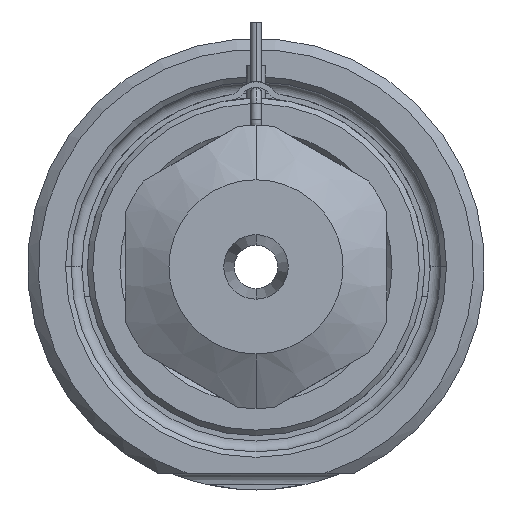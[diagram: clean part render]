
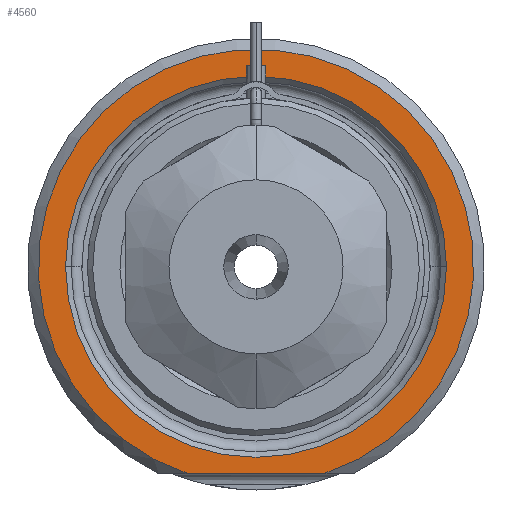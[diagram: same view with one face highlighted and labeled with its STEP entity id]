
A CAD part, front view. The second image highlights one B-rep face of the part: STEP entity #4560.
In plain terms, the highlighted planar face has unit normal (0, -1, 0).
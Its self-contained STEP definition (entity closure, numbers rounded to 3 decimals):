
#1603=CARTESIAN_POINT('',(0.,0.,0.));
#1604=DIRECTION('',(0.,-1.,0.));
#1605=DIRECTION('',(0.312,0.,-0.95));
#1606=AXIS2_PLACEMENT_3D('',#1603,#1604,#1605);
#1627=DIRECTION('',(1.,0.,0.));
#1628=VECTOR('',#1627,12.49);
#1629=CARTESIAN_POINT('',(-6.245,0.,-19.));
#1630=LINE('',#1629,#1628);
#1631=CARTESIAN_POINT('',(0.,0.,0.));
#1632=DIRECTION('',(0.,1.,0.));
#1633=DIRECTION('',(-1.,0.,0.));
#1634=AXIS2_PLACEMENT_3D('',#1631,#1632,#1633);
#1636=CARTESIAN_POINT('',(0.,0.,0.));
#1637=DIRECTION('',(0.,1.,0.));
#1638=DIRECTION('',(1.,0.,0.));
#1639=AXIS2_PLACEMENT_3D('',#1636,#1637,#1638);
#2471=CARTESIAN_POINT('',(-17.5,0.,0.));
#2472=CARTESIAN_POINT('',(17.5,0.,0.));
#2473=VERTEX_POINT('',#2471);
#2474=VERTEX_POINT('',#2472);
#2529=CARTESIAN_POINT('',(-6.245,0.,-19.));
#2530=CARTESIAN_POINT('',(6.245,0.,-19.));
#2531=VERTEX_POINT('',#2529);
#2532=VERTEX_POINT('',#2530);
#4545=CARTESIAN_POINT('',(0.,0.,0.));
#4546=DIRECTION('',(0.,-1.,0.));
#4547=DIRECTION('',(1.,0.,0.));
#4548=AXIS2_PLACEMENT_3D('',#4545,#4546,#4547);
#4549=PLANE('',#4548);
#4550=ORIENTED_EDGE('',*,*,#4477,.F.);
#4551=ORIENTED_EDGE('',*,*,#4537,.F.);
#4552=EDGE_LOOP('',(#4550,#4551));
#4553=FACE_OUTER_BOUND('',#4552,.F.);
#4555=ORIENTED_EDGE('',*,*,#4554,.F.);
#4557=ORIENTED_EDGE('',*,*,#4556,.F.);
#4558=EDGE_LOOP('',(#4555,#4557));
#4559=FACE_BOUND('',#4558,.F.);
#4560=ADVANCED_FACE('',(#4553,#4559),#4549,.T.);
#1607=CIRCLE('',#1606,20.);
#1635=CIRCLE('',#1634,17.5);
#1640=CIRCLE('',#1639,17.5);
#4477=EDGE_CURVE('',#2531,#2532,#1630,.T.);
#4537=EDGE_CURVE('',#2532,#2531,#1607,.T.);
#4554=EDGE_CURVE('',#2473,#2474,#1635,.T.);
#4556=EDGE_CURVE('',#2474,#2473,#1640,.T.);
